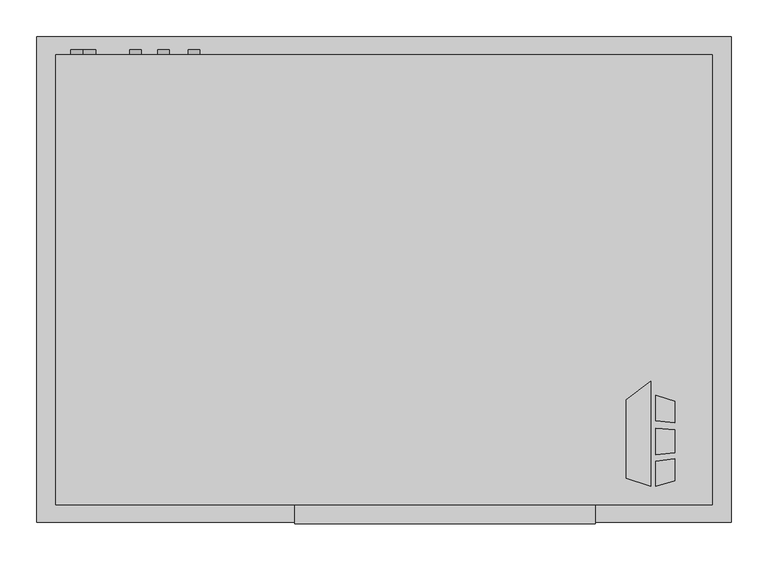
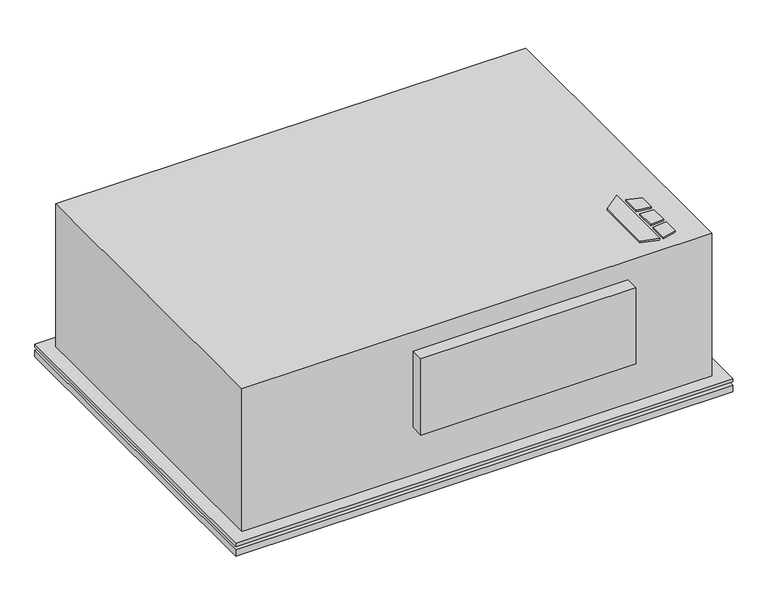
"""IFC4 building model written with IfcOpenShell, lengths in millimetres: proxy geometry, Horizontal_Telescoping_Fan_Coil_Unit_-_CBY_-_IEC_-_4-Pipe_LH_2022 : Size 02 - 277v/60Hz/1Ph - 4/1 Coil."""

from ifc_helpers import new_model, si_unit, point, frame, frame_2d, origin, origin_with_axes, place, context, project, spatial, polyline, circle_curve, trimmed, segment, composite_curve, outline, extrude, source, transform, mapped, element, save


def mechanical_equipment_9cad60a5(model_context):
    return source(origin(), model_context, "Body", "SweptSolid", [
        extrude(outline(polyline([(480.7019761, -401.0078476), (513.2602728, -375.5705184), (513.2602728, -517.525), (480.7019761, -507.3054201), (480.7019761, -401.0078476)])), origin_with_axes(), (0.0, 0.0, 1.0), 3.175),
        extrude(outline(polyline([(520.0186058, -428.879852), (520.0186058, -394.3999379), (546.1, -402.5865115), (546.1, -432.0822446), (520.0186058, -428.879852)])), origin_with_axes(), (0.0, 0.0, 1.0), 3.175),
        extrude(outline(polyline([(546.1, -510.5365115), (520.0186058, -517.525), (520.0186058, -484.3036996), (546.1, -480.7618564), (546.1, -510.5365115)])), origin_with_axes(), (0.0, 0.0, 1.0), 3.175),
        extrude(outline(polyline([(546.1, -441.1638277), (546.1, -472.413983), (520.0186058, -475.155248), (520.0186058, -439.2975378), (546.1, -441.1638277)])), origin_with_axes(), (0.0, 0.0, 1.0), 3.175),
        extrude(outline(composite_curve([segment(trimmed(circle_curve(frame_2d((-60.325, -104.775)), 7.9375), [point((-60.325, -96.8375))], [point((-60.325, -112.7125))], False, "CARTESIAN"), True, "CONTINUOUS"), segment(trimmed(circle_curve(frame_2d((-60.325, -104.775)), 7.9375), [point((-60.325, -112.7125))], [point((-60.325, -96.8375))], False, "CARTESIAN"), True, "CONTINUOUS")], self_intersect=False)), frame((0.0, 66.675, 0.0), z_axis=(0.0, 1.0, 0.0), x_axis=(0.0, 0.0, 1.0)), (0.0, 0.0, 1.0), 6.35),
        extrude(outline(composite_curve([segment(trimmed(circle_curve(frame_2d((-95.25, -146.05)), 7.9375), [point((-95.25, -138.1125))], [point((-95.25, -153.9875))], False, "CARTESIAN"), True, "CONTINUOUS"), segment(trimmed(circle_curve(frame_2d((-95.25, -146.05)), 7.9375), [point((-95.25, -153.9875))], [point((-95.25, -138.1125))], False, "CARTESIAN"), True, "CONTINUOUS")], self_intersect=False)), frame((0.0, 66.675, 0.0), z_axis=(0.0, 1.0, 0.0), x_axis=(0.0, 0.0, 1.0)), (0.0, 0.0, 1.0), 6.35),
        extrude(outline(composite_curve([segment(trimmed(circle_curve(frame_2d((-44.45, -184.15)), 7.9375), [point((-44.45, -176.2125))], [point((-44.45, -192.0875))], False, "CARTESIAN"), True, "CONTINUOUS"), segment(trimmed(circle_curve(frame_2d((-44.45, -184.15)), 7.9375), [point((-44.45, -192.0875))], [point((-44.45, -176.2125))], False, "CARTESIAN"), True, "CONTINUOUS")], self_intersect=False)), frame((0.0, 66.675, 0.0), z_axis=(0.0, 1.0, 0.0), x_axis=(0.0, 0.0, 1.0)), (0.0, 0.0, 1.0), 6.35),
        extrude(outline(composite_curve([segment(trimmed(circle_curve(frame_2d((-85.725, -263.525)), 7.9375), [point((-85.725, -255.5875))], [point((-85.725, -271.4625))], False, "CARTESIAN"), True, "CONTINUOUS"), segment(trimmed(circle_curve(frame_2d((-85.725, -263.525)), 7.9375), [point((-85.725, -271.4625))], [point((-85.725, -255.5875))], False, "CARTESIAN"), True, "CONTINUOUS")], self_intersect=False)), frame((0.0, 66.675, 0.0), z_axis=(0.0, 1.0, 0.0), x_axis=(0.0, 0.0, 1.0)), (0.0, 0.0, 1.0), 6.35),
        extrude(outline(composite_curve([segment(trimmed(circle_curve(frame_2d((-260.35, -247.65)), 9.525), [point((-260.35, -238.125))], [point((-260.35, -257.175))], False, "CARTESIAN"), True, "CONTINUOUS"), segment(trimmed(circle_curve(frame_2d((-260.35, -247.65)), 9.525), [point((-260.35, -257.175))], [point((-260.35, -238.125))], False, "CARTESIAN"), True, "CONTINUOUS")], self_intersect=False)), frame((0.0, 66.675, 0.0), z_axis=(0.0, 1.0, 0.0), x_axis=(0.0, 0.0, 1.0)), (0.0, 0.0, 1.0), 6.35),
        extrude(outline(polyline([(622.3, 90.4875), (622.3, -566.7375), (-317.5, -566.7375), (-317.5, 90.4875), (622.3, 90.4875)])), frame((0.0, 0.0, -311.15), z_axis=(0.0, 0.0, 1.0), x_axis=(1.0, 0.0, 0.0)), (0.0, 0.0, 1.0), 12.7),
        extrude(outline(polyline([(622.3, 90.4875), (622.3, -566.7375), (-317.5, -566.7375), (-317.5, 90.4875), (622.3, 90.4875)])), frame((0.0, 0.0, -292.1), z_axis=(0.0, 0.0, 1.0), x_axis=(1.0, 0.0, 0.0)), (0.0, 0.0, 1.0), 6.35),
        extrude(outline(polyline([(596.9, 65.0875), (596.9, -541.3375), (-292.1, -541.3375), (-292.1, 65.0875), (596.9, 65.0875)])), frame((0.0, 0.0, -298.45), z_axis=(0.0, 0.0, 1.0), x_axis=(1.0, 0.0, 0.0)), (0.0, 0.0, 1.0), 6.35),
        extrude(outline(polyline([(438.15, -568.325), (31.75, -568.325), (31.75, -542.925), (438.15, -542.925), (438.15, -568.325)])), frame((0.0, 0.0, -190.5), z_axis=(0.0, 0.0, 1.0), x_axis=(1.0, 0.0, 0.0)), (0.0, 0.0, 1.0), 152.4),
        extrude(outline(polyline([(-292.1, 66.675), (596.9, 66.675), (596.9, -542.925), (-292.1, -542.925), (-292.1, 66.675)])), frame((0.0, 0.0, -285.75), z_axis=(0.0, 0.0, 1.0), x_axis=(1.0, 0.0, 0.0)), (0.0, 0.0, 1.0), 285.75),
        extrude(outline(polyline([(508.0, -9.525), (508.0, -263.525), (-203.2, -263.525), (-203.2, -9.525), (508.0, -9.525)])), frame((0.0, 0.0, -317.5), z_axis=(0.0, 0.0, 1.0), x_axis=(1.0, 0.0, 0.0)), (0.0, 0.0, 1.0), 6.35),
    ])


if __name__ == "__main__":
    model = new_model("IFC4")
    model_context = context("Model", 3, world=origin())
    ifc_project = project(units=[si_unit("LENGTHUNIT", "METRE", prefix="MILLI")], contexts=[model_context])
    site = spatial("IfcSite", under=ifc_project)
    building = spatial("IfcBuilding", under=site)
    placement = place(None, origin())
    mechanical_equipment_shape = mechanical_equipment_9cad60a5(model_context)
    element("IfcBuildingElementProxy", 1, Name="Horizontal_Telescoping_Fan_Coil_Unit_-_CBY_-_IEC_-_4-Pipe_LH_2022 : Size 02 - 277v/60Hz/1Ph - 4/1 Coil", ObjectType="Horizontal_Telescoping_Fan_Coil_Unit_-_CBY_-_IEC_-_4-Pipe_LH_2022 : Size 02 - 277v/60Hz/1Ph - 4/1 Coil", at=placement, inside=building, context=model_context, shape_type="MappedRepresentation", body=[
        mapped(mechanical_equipment_shape, transform((0.0, 0.0, 0.0), x_axis=(1.0, 0.0, 0.0), y_axis=(0.0, 1.0, 0.0), z_axis=(0.0, 0.0, 1.0))),
    ])
    save(model, "model.ifc")
